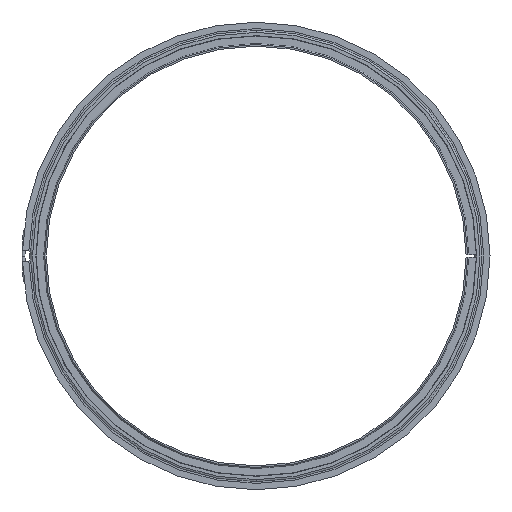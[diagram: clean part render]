
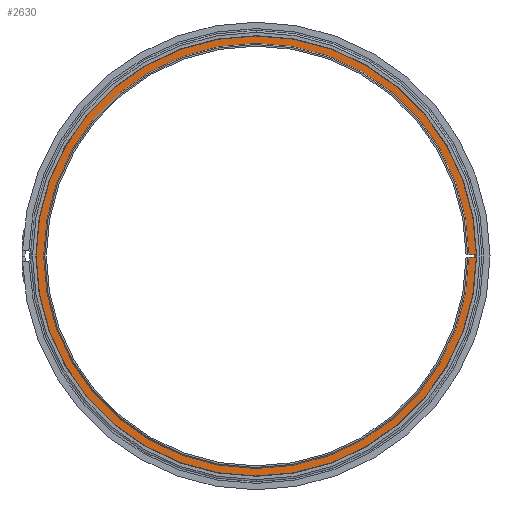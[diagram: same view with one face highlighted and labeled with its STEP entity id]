
A CAD part, left-side view. The second image highlights one B-rep face of the part: STEP entity #2630.
In plain terms, the highlighted planar face has unit normal (-1, 0, 0).
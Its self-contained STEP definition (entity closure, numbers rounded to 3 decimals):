
#623=CARTESIAN_POINT('',(-2.823,207.1,0.));
#624=VERTEX_POINT('',#623);
#633=CARTESIAN_POINT('',(-2.823,-207.098,1.));
#634=VERTEX_POINT('',#633);
#635=CARTESIAN_POINT('',(-2.823,0.,0.0));
#636=DIRECTION('',(1.0,0.0,0.0));
#637=DIRECTION('',(0.0,1.0,0.0));
#638=AXIS2_PLACEMENT_3D('',#635,#636,#637);
#639=CIRCLE('',#638,207.1);
#640=EDGE_CURVE('',#624,#634,#639,.T.);
#830=CARTESIAN_POINT('',(-2.823,200.0,0.));
#831=VERTEX_POINT('',#830);
#847=CARTESIAN_POINT('',(-2.823,-199.997,1.0));
#848=VERTEX_POINT('',#847);
#855=CARTESIAN_POINT('',(-2.823,0.,0.0));
#856=DIRECTION('',(1.0,0.0,0.0));
#857=DIRECTION('',(0.0,1.0,0.0));
#858=AXIS2_PLACEMENT_3D('',#855,#856,#857);
#859=CIRCLE('',#858,200.0);
#860=EDGE_CURVE('',#831,#848,#859,.T.);
#2339=CARTESIAN_POINT('',(-2.823,-207.098,-1.));
#2340=VERTEX_POINT('',#2339);
#2341=CARTESIAN_POINT('',(-2.823,-199.997,-1.));
#2342=VERTEX_POINT('',#2341);
#2343=CARTESIAN_POINT('',(-2.823,-207.098,-1.));
#2344=DIRECTION('',(0.0,1.0,0.0));
#2345=VECTOR('',#2344,7.1);
#2346=LINE('',#2343,#2345);
#2347=EDGE_CURVE('',#2340,#2342,#2346,.T.);
#2408=CARTESIAN_POINT('',(-2.823,-199.997,1.0));
#2409=DIRECTION('',(0.0,-1.0,0.0));
#2410=VECTOR('',#2409,7.1);
#2411=LINE('',#2408,#2410);
#2412=EDGE_CURVE('',#848,#634,#2411,.T.);
#2473=CARTESIAN_POINT('',(-2.823,0.,0.0));
#2474=DIRECTION('',(1.0,0.0,0.0));
#2475=DIRECTION('',(0.0,1.0,0.0));
#2476=AXIS2_PLACEMENT_3D('',#2473,#2474,#2475);
#2477=CIRCLE('',#2476,200.0);
#2478=EDGE_CURVE('',#2342,#831,#2477,.T.);
#2611=CARTESIAN_POINT('',(-2.823,203.55,0.0));
#2612=DIRECTION('',(-1.0,0.0,0.0));
#2613=DIRECTION('',(0.0,0.0,1.0));
#2614=AXIS2_PLACEMENT_3D('',#2611,#2612,#2613);
#2615=PLANE('',#2614);
#2616=ORIENTED_EDGE('',*,*,#2347,.T.);
#2617=ORIENTED_EDGE('',*,*,#2478,.T.);
#2618=ORIENTED_EDGE('',*,*,#860,.T.);
#2619=ORIENTED_EDGE('',*,*,#2412,.T.);
#2620=ORIENTED_EDGE('',*,*,#640,.F.);
#2621=CARTESIAN_POINT('',(-2.823,0.,0.0));
#2622=DIRECTION('',(1.0,0.0,0.0));
#2623=DIRECTION('',(0.0,1.0,0.0));
#2624=AXIS2_PLACEMENT_3D('',#2621,#2622,#2623);
#2625=CIRCLE('',#2624,207.1);
#2626=EDGE_CURVE('',#2340,#624,#2625,.T.);
#2627=ORIENTED_EDGE('',*,*,#2626,.F.);
#2628=EDGE_LOOP('',(#2616,#2617,#2618,#2619,#2620,#2627));
#2629=FACE_OUTER_BOUND('',#2628,.T.);
#2630=ADVANCED_FACE('',(#2629),#2615,.T.);
